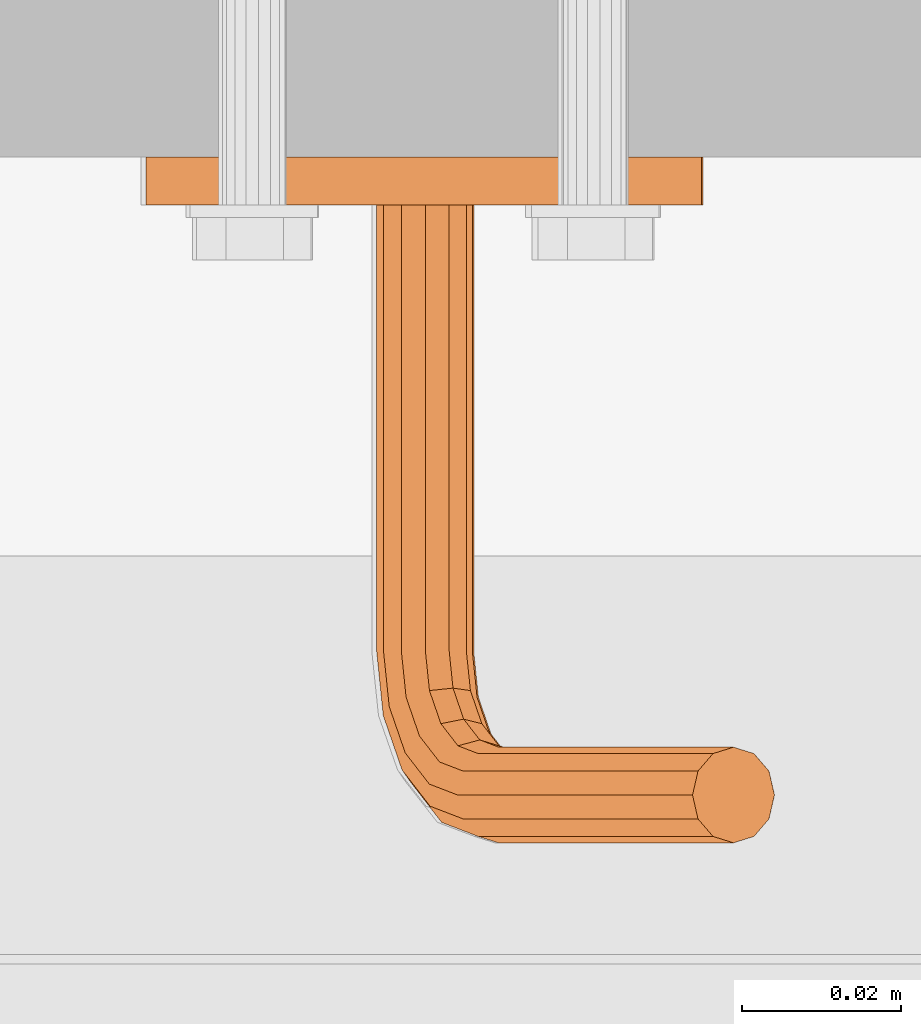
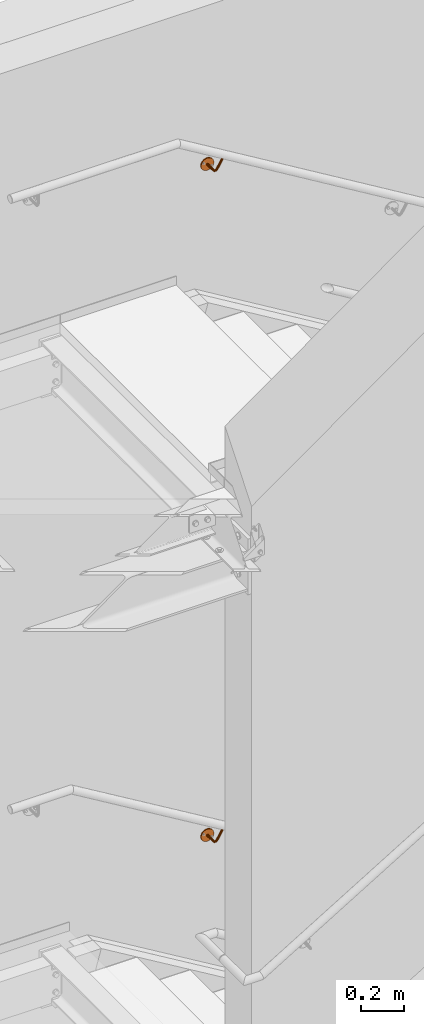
# One storey, part 381 of 410: 2 proxies.
"""IFC2X3 building model written with IfcOpenShell, lengths in millimetres."""

from ifc_helpers import new_model, entity, si_unit, converted_unit, origin_with_axes, place, context, project, spatial, faceted_brep, element, save


model = new_model("IFC2X3")

# Units and contexts
model_context = context("Model", 3, precision=1e-09, world=origin_with_axes())
ifc_project = project(units=[si_unit("LENGTHUNIT", "METRE", prefix="MILLI"), si_unit("AREAUNIT", "SQUARE_METRE"), si_unit("VOLUMEUNIT", "CUBIC_METRE"), converted_unit("PLANEANGLEUNIT", "DEGREE", entity("IfcPlaneAngleMeasure", 0.01745329), si_unit("PLANEANGLEUNIT", "RADIAN"), dimensions=[0, 0, 0, 0, 0, 0, 0])], contexts=[model_context])

# Site, building, storey
site_placement = place(None, origin_with_axes())
site = spatial("IfcSite", under=ifc_project, at=site_placement, Name="mKR Teilneubau & Sanierung BA1 - Ostfildern", CompositionType="ELEMENT")
building_placement = place(site_placement, origin_with_axes())
building = spatial("IfcBuilding", under=site, at=building_placement, Name="Struktur 1", CompositionType="ELEMENT")
storey_placement = place(building_placement, origin_with_axes())
storey = spatial("IfcBuildingStorey", under=building, at=storey_placement, Name="Default Storey", CompositionType="ELEMENT", Elevation=0.0)

# Proxies
proxy_1_placement = place(None, origin_with_axes())
element("IfcBuildingElementProxy", 1, at=proxy_1_placement, inside=storey, ObjectType="-", context=model_context, shape_type="Brep", body=[
    faceted_brep([(-952.2087252, 18620.000061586, 8111.09186368), (-952.2087252, 18614.000061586, 8111.09186368), (-953.794144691, 18614.000061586, 8109.566649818), (-953.794144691, 18620.000061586, 8109.566649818), (-897.221785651, 18614.000061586, 8109.650592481), (-903.864367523, 18614.000061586, 8119.064617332), (-913.20376486, 18614.000061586, 8125.811721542), (-924.227909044, 18614.000061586, 8129.160751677), (-935.742162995, 18614.000061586, 8128.748788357), (-946.498778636, 18614.000061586, 8124.6204742), (-955.332109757, 18614.000061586, 8117.223176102), (-961.284927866, 18614.000061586, 8107.358506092), (-963.712152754, 18614.000061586, 8096.095454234), (-962.350756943, 18614.000061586, 8084.654546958), (-957.348268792, 18614.000061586, 8074.275584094), (-949.246785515, 18614.000061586, 8066.083287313), (-938.924228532, 18614.000061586, 8060.965419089), (-927.499207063, 18614.000061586, 8059.476579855), (-916.209799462, 18614.000061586, 8061.778108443), (-906.279388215, 18614.000061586, 8067.620598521), (-898.784087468, 18614.000061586, 8076.370925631), (-894.536129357, 18614.000061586, 8087.080856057), (-893.995846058, 18614.000061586, 8098.589802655), (-909.399342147, 18614.000061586, 8085.258615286), (-907.263721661, 18614.000061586, 8085.786779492), (-905.150137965, 18614.000061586, 8085.176372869), (-903.624924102, 18614.000061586, 8083.590953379), (-903.096759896, 18614.000061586, 8081.455332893), (-903.707166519, 18614.000061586, 8079.341749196), (-905.292586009, 18614.000061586, 8077.816535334), (-907.428206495, 18614.000061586, 8077.288371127), (-909.541790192, 18614.000061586, 8077.89877775), (-911.067004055, 18614.000061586, 8079.484197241), (-911.595168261, 18614.000061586, 8081.619817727), (-910.984761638, 18614.000061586, 8083.733401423), (-950.073104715, 18614.000061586, 8111.620027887), (-947.959521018, 18614.000061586, 8111.009621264), (-946.434307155, 18614.000061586, 8109.424201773), (-945.906142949, 18614.000061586, 8107.288581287), (-946.516549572, 18614.000061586, 8105.174997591), (-948.101969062, 18614.000061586, 8103.649783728), (-950.237589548, 18614.000061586, 8103.121619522), (-952.351173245, 18614.000061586, 8103.732026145), (-953.876387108, 18614.000061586, 8105.317445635), (-954.404551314, 18614.000061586, 8107.453066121), (-950.073104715, 18620.000061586, 8111.620027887), (-927.499207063, 18620.000061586, 8059.476579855), (-938.924228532, 18620.000061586, 8060.965419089), (-949.246785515, 18620.000061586, 8066.083287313), (-957.348268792, 18620.000061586, 8074.275584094), (-962.350756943, 18620.000061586, 8084.654546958), (-963.712152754, 18620.000061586, 8096.095454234), (-961.284927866, 18620.000061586, 8107.358506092), (-955.332109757, 18620.000061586, 8117.223176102), (-946.498778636, 18620.000061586, 8124.6204742), (-935.742162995, 18620.000061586, 8128.748788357), (-924.227909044, 18620.000061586, 8129.160751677), (-913.20376486, 18620.000061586, 8125.811721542), (-903.864367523, 18620.000061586, 8119.064617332), (-897.221785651, 18620.000061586, 8109.650592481), (-893.995846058, 18620.000061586, 8098.589802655), (-894.536129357, 18620.000061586, 8087.080856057), (-898.784087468, 18620.000061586, 8076.370925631), (-906.279388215, 18620.000061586, 8067.620598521), (-916.209799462, 18620.000061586, 8061.778108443), (-954.404551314, 18620.000061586, 8107.453066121), (-953.876387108, 18620.000061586, 8105.317445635), (-952.351173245, 18620.000061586, 8103.732026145), (-950.237589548, 18620.000061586, 8103.121619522), (-948.101969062, 18620.000061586, 8103.649783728), (-946.516549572, 18620.000061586, 8105.174997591), (-945.906142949, 18620.000061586, 8107.288581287), (-946.434307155, 18620.000061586, 8109.424201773), (-947.959521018, 18620.000061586, 8111.009621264), (-911.595168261, 18620.000061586, 8081.619817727), (-911.067004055, 18620.000061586, 8079.484197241), (-909.541790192, 18620.000061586, 8077.89877775), (-907.428206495, 18620.000061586, 8077.288371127), (-905.292586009, 18620.000061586, 8077.816535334), (-903.707166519, 18620.000061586, 8079.341749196), (-903.096759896, 18620.000061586, 8081.455332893), (-903.624924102, 18620.000061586, 8083.590953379), (-905.150137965, 18620.000061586, 8085.176372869), (-907.263721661, 18620.000061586, 8085.786779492), (-909.399342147, 18620.000061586, 8085.258615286), (-910.984761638, 18620.000061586, 8083.733401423)], [[[0, 1, 2, 3]], [[4, 5, 6, 7, 8, 9, 10, 11, 12, 13, 14, 15, 16, 17, 18, 19, 20, 21, 22], [23, 24, 25, 26, 27, 28, 29, 30, 31, 32, 33, 34], [2, 1, 35, 36, 37, 38, 39, 40, 41, 42, 43, 44]], [[1, 0, 45, 35]], [[46, 47, 48, 49, 50, 51, 52, 53, 54, 55, 56, 57, 58, 59, 60, 61, 62, 63, 64], [0, 3, 65, 66, 67, 68, 69, 70, 71, 72, 73, 45], [74, 75, 76, 77, 78, 79, 80, 81, 82, 83, 84, 85]], [[3, 2, 44, 65]], [[10, 53, 52, 11]], [[65, 44, 43, 66]], [[35, 45, 73, 36]], [[53, 10, 9, 54]], [[66, 43, 42, 67]], [[11, 52, 51, 12]], [[36, 73, 72, 37]], [[8, 55, 54, 9]], [[67, 42, 41, 68]], [[55, 8, 7, 56]], [[50, 13, 12, 51]], [[37, 72, 71, 38]], [[13, 50, 49, 14]], [[68, 41, 40, 69]], [[38, 71, 70, 39]], [[56, 7, 6, 57]], [[69, 40, 39, 70]], [[14, 49, 48, 15]], [[57, 6, 5, 58]], [[34, 85, 84, 23]], [[15, 48, 47, 16]], [[85, 34, 33, 74]], [[23, 84, 83, 24]], [[58, 5, 4, 59]], [[16, 47, 46, 17]], [[74, 33, 32, 75]], [[24, 83, 82, 25]], [[59, 4, 22, 60]], [[17, 46, 64, 18]], [[75, 32, 31, 76]], [[25, 82, 81, 26]], [[60, 22, 21, 61]], [[18, 64, 63, 19]], [[76, 31, 30, 77]], [[20, 62, 61, 21]], [[26, 81, 80, 27]], [[62, 20, 19, 63]], [[77, 30, 29, 78]], [[27, 80, 79, 28]], [[78, 29, 28, 79]]]),
    faceted_brep([(-923.613529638, 18558.000061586, 8091.3542097), (-923.613529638, 18614.000061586, 8091.3542097), (-922.751779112, 18614.000061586, 8094.338092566), (-922.751779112, 18558.000061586, 8094.338092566), (-915.001804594, 18537.000061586, 8107.180907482), (-885.551901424, 18537.000061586, 8155.983604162), (-887.43222003, 18534.803909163, 8157.118279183), (-916.8821232, 18534.803909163, 8108.315582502), (-914.313560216, 18540.000061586, 8106.765587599), (-884.863657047, 18540.000061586, 8155.56828428), (-921.46844612, 18536.569611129, 8100.715390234), (-919.153906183, 18538.598591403, 8100.300281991), (-934.003888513, 18614.000061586, 8091.555312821), (-934.749532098, 18614.000061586, 8094.570306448), (-933.887781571, 18614.000061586, 8097.554189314), (-931.64954229, 18614.000061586, 8099.707432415), (-928.634548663, 18614.000061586, 8100.453076), (-925.650665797, 18614.000061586, 8099.591325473), (-923.497422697, 18614.000061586, 8097.353086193), (-925.851768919, 18614.000061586, 8089.200966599), (-928.866762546, 18614.000061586, 8088.455323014), (-931.850645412, 18614.000061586, 8089.317073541), (-925.851768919, 18558.000061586, 8089.200966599), (-922.161847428, 18552.2598101, 8095.315693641), (-922.905611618, 18551.111759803, 8092.52733099), (-892.569345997, 18545.196214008, 8160.218268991), (-894.449664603, 18543.000061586, 8161.352944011), (-895.13790898, 18540.000061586, 8161.768263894), (-894.449664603, 18537.000061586, 8161.352944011), (-892.569345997, 18534.803909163, 8160.218268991), (-890.000783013, 18534.000061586, 8158.668274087), (-885.551901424, 18543.000061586, 8155.983604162), (-887.43222003, 18545.196214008, 8157.118279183), (-890.000783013, 18546.000061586, 8158.668274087), (-917.872504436, 18541.37023, 8100.867908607), (-922.673887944, 18543.150819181, 8094.467169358), (-920.88963166, 18545.272139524, 8095.868097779), (-923.497422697, 18558.000061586, 8097.353086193), (-925.025864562, 18549.963709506, 8090.569608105), (-919.450686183, 18534.000061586, 8109.865577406), (-915.001804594, 18543.000061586, 8107.180907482), (-924.195945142, 18535.826952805, 8102.002005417), (-925.356542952, 18541.59790491, 8094.272258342), (-920.481864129, 18547.393459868, 8098.099665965), (-922.993863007, 18553.100241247, 8098.187556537), (-928.866762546, 18558.000061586, 8088.455323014), (-917.967591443, 18544.141868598, 8102.266174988), (-925.650665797, 18558.000061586, 8099.591325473), (-927.954486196, 18549.123278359, 8089.967095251), (-922.019249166, 18534.803909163, 8111.41557231), (-916.8821232, 18545.196214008, 8108.315582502), (-926.605572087, 18536.569611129, 8103.815380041), (-928.21878144, 18541.029498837, 8095.33559098), (-921.559846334, 18548.946374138, 8100.563927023), (-925.178720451, 18553.407860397, 8100.373406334), (-931.850645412, 18558.000061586, 8089.317073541), (-919.413688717, 18546.170848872, 8104.120416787), (-923.899567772, 18537.000061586, 8112.550247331), (-928.634548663, 18558.000061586, 8100.453076), (-930.906754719, 18548.815659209, 8090.881235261), (-919.450686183, 18546.000061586, 8109.865577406), (-928.051669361, 18538.598591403, 8105.66962184), (-930.493668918, 18541.59790491, 8097.372248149), (-923.834733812, 18549.514780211, 8102.600584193), (-928.130988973, 18553.100241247, 8101.287546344), (-934.003888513, 18558.000061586, 8091.555312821), (-921.823315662, 18546.913507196, 8105.933791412), (-924.587812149, 18540.000061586, 8112.965567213), (-931.64954229, 18558.000061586, 8099.707432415), (-933.091612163, 18549.123278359, 8093.067085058), (-922.019249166, 18545.196214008, 8111.41557231), (-923.899567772, 18543.000061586, 8112.550247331), (-928.146756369, 18541.37023, 8107.067888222), (-931.571651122, 18543.150819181, 8099.836509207), (-926.6969723, 18548.946374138, 8103.66391683), (-931.059610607, 18552.2598101, 8100.68503349), (-933.887781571, 18558.000061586, 8097.554189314), (-934.749532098, 18558.000061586, 8094.570306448), (-924.550814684, 18546.170848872, 8107.220406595), (-933.923627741, 18549.963709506, 8095.938947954), (-926.865354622, 18544.141868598, 8107.635514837), (-931.163883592, 18545.272139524, 8102.068077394), (-933.179863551, 18551.111759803, 8098.727310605), (-929.379627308, 18547.393459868, 8103.469005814)], [[[0, 1, 2, 3]], [[4, 5, 6, 7]], [[5, 4, 8, 9]], [[4, 7, 10, 11]], [[12, 13, 14, 15, 16, 17, 18, 2, 1, 19, 20, 21]], [[1, 0, 22, 19]], [[0, 3, 23, 24]], [[25, 26, 27, 28, 29, 30, 6, 5, 9, 31, 32, 33]], [[11, 34, 8, 4]], [[35, 36, 34, 11]], [[3, 2, 18, 37]], [[24, 38, 22, 0]], [[36, 35, 38, 24]], [[7, 6, 30, 39]], [[9, 8, 40, 31]], [[7, 39, 41, 10]], [[11, 10, 42, 35]], [[24, 23, 43, 36]], [[3, 37, 44, 23]], [[19, 22, 45, 20]], [[36, 43, 46, 34]], [[34, 46, 40, 8]], [[37, 18, 17, 47]], [[38, 48, 45, 22]], [[35, 42, 48, 38]], [[39, 30, 29, 49]], [[31, 40, 50, 32]], [[39, 49, 51, 41]], [[10, 41, 52, 42]], [[23, 44, 53, 43]], [[37, 47, 54, 44]], [[20, 45, 55, 21]], [[43, 53, 56, 46]], [[46, 56, 50, 40]], [[49, 29, 28, 57]], [[47, 17, 16, 58]], [[48, 59, 55, 45]], [[42, 52, 59, 48]], [[32, 50, 60, 33]], [[49, 57, 61, 51]], [[41, 51, 62, 52]], [[44, 54, 63, 53]], [[47, 58, 64, 54]], [[21, 55, 65, 12]], [[56, 66, 60, 50]], [[53, 63, 66, 56]], [[57, 28, 27, 67]], [[58, 16, 15, 68]], [[59, 69, 65, 55]], [[52, 62, 69, 59]], [[33, 60, 70, 25]], [[26, 71, 67, 27]], [[25, 70, 71, 26]], [[57, 67, 72, 61]], [[51, 61, 73, 62]], [[54, 64, 74, 63]], [[58, 68, 75, 64]], [[14, 76, 68, 15]], [[13, 77, 76, 14]], [[12, 65, 77, 13]], [[66, 78, 70, 60]], [[63, 74, 78, 66]], [[69, 79, 77, 65]], [[62, 73, 79, 69]], [[67, 71, 80, 72]], [[71, 70, 78, 80]], [[61, 72, 81, 73]], [[68, 76, 82, 75]], [[64, 75, 83, 74]], [[76, 77, 79, 82]], [[74, 83, 80, 78]], [[73, 81, 82, 79]], [[72, 80, 83, 81]], [[75, 82, 81, 83]]]),
])
proxy_2_placement = place(None, origin_with_axes())
element("IfcBuildingElementProxy", 2, at=proxy_2_placement, inside=storey, ObjectType="-", context=model_context, shape_type="Brep", body=[
    faceted_brep([(-952.077552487, 18620.000061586, 4264.057480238), (-952.077552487, 18614.000061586, 4264.057480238), (-953.658768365, 18614.000061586, 4262.527908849), (-953.658768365, 18620.000061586, 4262.527908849), (-897.086854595, 18614.000061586, 4262.767546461), (-903.755320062, 18614.000061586, 4272.163254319), (-913.11325103, 18614.000061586, 4278.884629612), (-924.146570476, 18614.000061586, 4282.203307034), (-935.659647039, 18614.000061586, 4281.759656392), (-946.404860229, 18614.000061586, 4277.601754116), (-955.217799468, 18614.000061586, 4270.180173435), (-961.143446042, 18614.000061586, 4260.299157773), (-963.5396642, 18614.000061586, 4249.029468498), (-962.146786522, 18614.000061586, 4237.592351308), (-957.115752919, 18614.000061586, 4227.227195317), (-948.991753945, 18614.000061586, 4219.057226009), (-938.655150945, 18614.000061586, 4213.967786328), (-927.226075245, 18614.000061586, 4212.510396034), (-915.943044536, 18614.000061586, 4214.842985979), (-906.02875027, 18614.000061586, 4220.71278385), (-898.557560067, 18614.000061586, 4229.483705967), (-894.339093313, 18614.000061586, 4240.205286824), (-893.830486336, 18614.000061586, 4251.715676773), (-909.197234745, 18614.000061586, 4238.342147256), (-907.063075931, 18614.000061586, 4238.876186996), (-904.947820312, 18614.000061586, 4238.271599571), (-903.418248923, 18614.000061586, 4236.690383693), (-902.884209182, 18614.000061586, 4234.556224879), (-903.488796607, 18614.000061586, 4232.44096926), (-905.070012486, 18614.000061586, 4230.911397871), (-907.2041713, 18614.000061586, 4230.37735813), (-909.319426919, 18614.000061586, 4230.981945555), (-910.848998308, 18614.000061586, 4232.563161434), (-911.383038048, 18614.000061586, 4234.697320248), (-910.778450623, 18614.000061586, 4236.812575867), (-949.943393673, 18614.000061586, 4264.591519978), (-947.828138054, 18614.000061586, 4263.986932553), (-946.298566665, 18614.000061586, 4262.405716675), (-945.764526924, 18614.000061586, 4260.271557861), (-946.369114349, 18614.000061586, 4258.156302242), (-947.950330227, 18614.000061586, 4256.626730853), (-950.084489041, 18614.000061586, 4256.092691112), (-952.19974466, 18614.000061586, 4256.697278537), (-953.72931605, 18614.000061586, 4258.278494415), (-954.26335579, 18614.000061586, 4260.41265323), (-949.943393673, 18620.000061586, 4264.591519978), (-927.226075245, 18620.000061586, 4212.510396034), (-938.655150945, 18620.000061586, 4213.967786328), (-948.991753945, 18620.000061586, 4219.057226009), (-957.115752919, 18620.000061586, 4227.227195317), (-962.146786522, 18620.000061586, 4237.592351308), (-963.5396642, 18620.000061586, 4249.029468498), (-961.143446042, 18620.000061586, 4260.299157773), (-955.217799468, 18620.000061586, 4270.180173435), (-946.404860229, 18620.000061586, 4277.601754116), (-935.659647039, 18620.000061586, 4281.759656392), (-924.146570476, 18620.000061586, 4282.203307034), (-913.11325103, 18620.000061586, 4278.884629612), (-903.755320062, 18620.000061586, 4272.163254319), (-897.086854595, 18620.000061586, 4262.767546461), (-893.830486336, 18620.000061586, 4251.715676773), (-894.339093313, 18620.000061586, 4240.205286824), (-898.557560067, 18620.000061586, 4229.483705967), (-906.02875027, 18620.000061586, 4220.71278385), (-915.943044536, 18620.000061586, 4214.842985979), (-911.383038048, 18620.000061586, 4234.697320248), (-910.848998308, 18620.000061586, 4232.563161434), (-909.319426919, 18620.000061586, 4230.981945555), (-907.2041713, 18620.000061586, 4230.37735813), (-905.070012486, 18620.000061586, 4230.911397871), (-903.488796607, 18620.000061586, 4232.44096926), (-902.884209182, 18620.000061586, 4234.556224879), (-903.418248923, 18620.000061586, 4236.690383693), (-904.947820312, 18620.000061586, 4238.271599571), (-907.063075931, 18620.000061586, 4238.876186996), (-909.197234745, 18620.000061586, 4238.342147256), (-910.778450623, 18620.000061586, 4236.812575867), (-954.26335579, 18620.000061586, 4260.41265323), (-953.72931605, 18620.000061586, 4258.278494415), (-952.19974466, 18620.000061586, 4256.697278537), (-950.084489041, 18620.000061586, 4256.092691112), (-947.950330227, 18620.000061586, 4256.626730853), (-946.369114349, 18620.000061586, 4258.156302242), (-945.764526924, 18620.000061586, 4260.271557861), (-946.298566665, 18620.000061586, 4262.405716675), (-947.828138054, 18620.000061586, 4263.986932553)], [[[0, 1, 2, 3]], [[4, 5, 6, 7, 8, 9, 10, 11, 12, 13, 14, 15, 16, 17, 18, 19, 20, 21, 22], [23, 24, 25, 26, 27, 28, 29, 30, 31, 32, 33, 34], [2, 1, 35, 36, 37, 38, 39, 40, 41, 42, 43, 44]], [[1, 0, 45, 35]], [[46, 47, 48, 49, 50, 51, 52, 53, 54, 55, 56, 57, 58, 59, 60, 61, 62, 63, 64], [65, 66, 67, 68, 69, 70, 71, 72, 73, 74, 75, 76], [0, 3, 77, 78, 79, 80, 81, 82, 83, 84, 85, 45]], [[3, 2, 44, 77]], [[10, 53, 52, 11]], [[77, 44, 43, 78]], [[35, 45, 85, 36]], [[53, 10, 9, 54]], [[78, 43, 42, 79]], [[11, 52, 51, 12]], [[36, 85, 84, 37]], [[8, 55, 54, 9]], [[79, 42, 41, 80]], [[55, 8, 7, 56]], [[50, 13, 12, 51]], [[37, 84, 83, 38]], [[13, 50, 49, 14]], [[80, 41, 40, 81]], [[38, 83, 82, 39]], [[56, 7, 6, 57]], [[81, 40, 39, 82]], [[14, 49, 48, 15]], [[57, 6, 5, 58]], [[34, 76, 75, 23]], [[15, 48, 47, 16]], [[76, 34, 33, 65]], [[23, 75, 74, 24]], [[58, 5, 4, 59]], [[16, 47, 46, 17]], [[65, 33, 32, 66]], [[24, 74, 73, 25]], [[59, 4, 22, 60]], [[17, 46, 64, 18]], [[66, 32, 31, 67]], [[25, 73, 72, 26]], [[60, 22, 21, 61]], [[18, 64, 63, 19]], [[67, 31, 30, 68]], [[20, 62, 61, 21]], [[26, 72, 71, 27]], [[62, 20, 19, 63]], [[68, 30, 29, 69]], [[27, 71, 70, 28]], [[69, 29, 28, 70]]]),
    faceted_brep([(-923.428144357, 18558.000061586, 4244.398599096), (-923.428144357, 18614.000061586, 4244.398599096), (-922.574609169, 18614.000061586, 4247.384842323), (-922.574609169, 18558.000061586, 4247.384842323), (-914.860009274, 18537.000061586, 4260.248937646), (-885.544529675, 18537.000061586, 4309.132499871), (-887.427963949, 18534.803909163, 4310.261995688), (-916.743443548, 18534.803909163, 4261.378433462), (-914.170624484, 18540.000061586, 4259.835513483), (-884.855144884, 18540.000061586, 4308.719075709), (-921.308832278, 18536.569611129, 4253.765647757), (-918.993158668, 18538.598591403, 4253.356911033), (-933.819017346, 18614.000061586, 4244.571105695), (-934.572955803, 18614.000061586, 4247.584035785), (-933.719420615, 18614.000061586, 4250.570279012), (-931.487115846, 18614.000061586, 4252.729673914), (-928.474185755, 18614.000061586, 4253.483612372), (-925.487942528, 18614.000061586, 4252.630077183), (-923.328547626, 18614.000061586, 4250.397772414), (-925.660449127, 18614.000061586, 4242.239204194), (-928.673379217, 18614.000061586, 4241.485265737), (-931.659622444, 18614.000061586, 4242.338800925), (-925.660449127, 18558.000061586, 4242.239204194), (-921.987370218, 18552.2598101, 4248.364063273), (-922.723457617, 18551.111759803, 4245.573664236), (-892.573602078, 18545.196214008, 4313.347835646), (-894.457036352, 18543.000061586, 4314.477331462), (-895.146421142, 18540.000061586, 4314.890755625), (-894.457036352, 18537.000061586, 4314.477331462), (-892.573602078, 18534.803909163, 4313.347835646), (-890.000783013, 18534.000061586, 4311.804915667), (-885.544529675, 18543.000061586, 4309.132499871), (-887.427963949, 18545.196214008, 4310.261995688), (-890.000783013, 18546.000061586, 4311.804915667), (-917.713323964, 18541.37023, 4253.928062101), (-922.497073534, 18543.150819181, 4247.514132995), (-920.716679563, 18545.272139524, 4248.91996664), (-923.328547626, 18558.000061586, 4250.397772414), (-924.838314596, 18549.963709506, 4243.610113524), (-919.316262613, 18534.000061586, 4262.921353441), (-914.860009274, 18543.000061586, 4260.248937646), (-924.03986192, 18535.826952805, 4255.044751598), (-925.179181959, 18541.59790491, 4247.311839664), (-920.315055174, 18547.393459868, 4251.152648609), (-922.827286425, 18553.100241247, 4251.233625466), (-928.673379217, 18558.000061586, 4241.485265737), (-917.812258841, 18544.141868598, 4255.326061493), (-925.487942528, 18558.000061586, 4252.630077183), (-927.765266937, 18549.123278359, 4242.999542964), (-921.889081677, 18534.803909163, 4264.46427342), (-916.743443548, 18545.196214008, 4261.378433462), (-926.454470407, 18536.569611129, 4256.851487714), (-928.044336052, 18541.029498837, 4248.367290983), (-921.399815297, 18548.946374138, 4253.613933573), (-925.018151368, 18553.407860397, 4253.413453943), (-931.659622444, 18558.000061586, 4242.338800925), (-919.263453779, 18546.170848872, 4257.176316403), (-923.772515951, 18537.000061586, 4265.593769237), (-928.474185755, 18558.000061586, 4253.483612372), (-930.720040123, 18548.815659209, 4243.905554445), (-919.316262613, 18546.000061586, 4262.921353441), (-927.905665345, 18538.598591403, 4258.701742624), (-930.324820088, 18541.59790491, 4250.397679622), (-923.680299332, 18549.514780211, 4255.644322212), (-927.972924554, 18553.100241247, 4254.319465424), (-933.819017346, 18558.000061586, 4244.571105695), (-921.678062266, 18546.913507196, 4258.983052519), (-924.461900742, 18540.000061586, 4266.007193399), (-931.487115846, 18558.000061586, 4252.729673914), (-932.910905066, 18549.123278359, 4246.085382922), (-921.889081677, 18545.196214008, 4264.46427342), (-923.772515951, 18543.000061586, 4265.593769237), (-928.004600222, 18541.37023, 4260.099742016), (-931.409580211, 18543.150819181, 4252.858964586), (-926.545453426, 18548.946374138, 4256.699773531), (-930.899876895, 18552.2598101, 4253.708894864), (-933.719420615, 18558.000061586, 4250.570279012), (-934.572955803, 18558.000061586, 4247.584035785), (-924.409091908, 18546.170848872, 4260.26215636), (-933.750821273, 18549.963709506, 4248.954945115), (-926.724765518, 18544.141868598, 4260.670893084), (-931.007955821, 18545.272139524, 4255.091646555), (-933.014733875, 18551.111759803, 4251.745344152), (-929.227561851, 18547.393459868, 4256.4974802)], [[[0, 1, 2, 3]], [[4, 5, 6, 7]], [[5, 4, 8, 9]], [[4, 7, 10, 11]], [[12, 13, 14, 15, 16, 17, 18, 2, 1, 19, 20, 21]], [[1, 0, 22, 19]], [[0, 3, 23, 24]], [[25, 26, 27, 28, 29, 30, 6, 5, 9, 31, 32, 33]], [[11, 34, 8, 4]], [[35, 36, 34, 11]], [[3, 2, 18, 37]], [[24, 38, 22, 0]], [[36, 35, 38, 24]], [[7, 6, 30, 39]], [[9, 8, 40, 31]], [[7, 39, 41, 10]], [[11, 10, 42, 35]], [[24, 23, 43, 36]], [[3, 37, 44, 23]], [[19, 22, 45, 20]], [[36, 43, 46, 34]], [[34, 46, 40, 8]], [[37, 18, 17, 47]], [[38, 48, 45, 22]], [[35, 42, 48, 38]], [[39, 30, 29, 49]], [[31, 40, 50, 32]], [[39, 49, 51, 41]], [[10, 41, 52, 42]], [[23, 44, 53, 43]], [[37, 47, 54, 44]], [[20, 45, 55, 21]], [[43, 53, 56, 46]], [[46, 56, 50, 40]], [[49, 29, 28, 57]], [[47, 17, 16, 58]], [[48, 59, 55, 45]], [[42, 52, 59, 48]], [[32, 50, 60, 33]], [[49, 57, 61, 51]], [[41, 51, 62, 52]], [[44, 54, 63, 53]], [[47, 58, 64, 54]], [[21, 55, 65, 12]], [[56, 66, 60, 50]], [[53, 63, 66, 56]], [[57, 28, 27, 67]], [[58, 16, 15, 68]], [[59, 69, 65, 55]], [[52, 62, 69, 59]], [[33, 60, 70, 25]], [[26, 71, 67, 27]], [[25, 70, 71, 26]], [[57, 67, 72, 61]], [[51, 61, 73, 62]], [[54, 64, 74, 63]], [[58, 68, 75, 64]], [[14, 76, 68, 15]], [[13, 77, 76, 14]], [[12, 65, 77, 13]], [[66, 78, 70, 60]], [[63, 74, 78, 66]], [[69, 79, 77, 65]], [[62, 73, 79, 69]], [[67, 71, 80, 72]], [[71, 70, 78, 80]], [[61, 72, 81, 73]], [[68, 76, 82, 75]], [[64, 75, 83, 74]], [[76, 77, 79, 82]], [[74, 83, 80, 78]], [[73, 81, 82, 79]], [[72, 80, 83, 81]], [[75, 82, 81, 83]]]),
])

save(model, "model.ifc")
